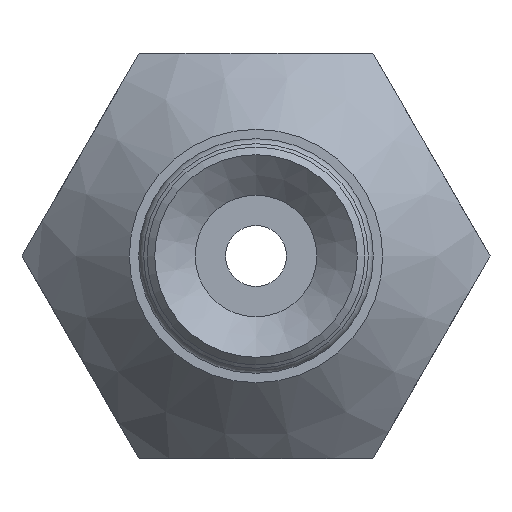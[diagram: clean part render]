
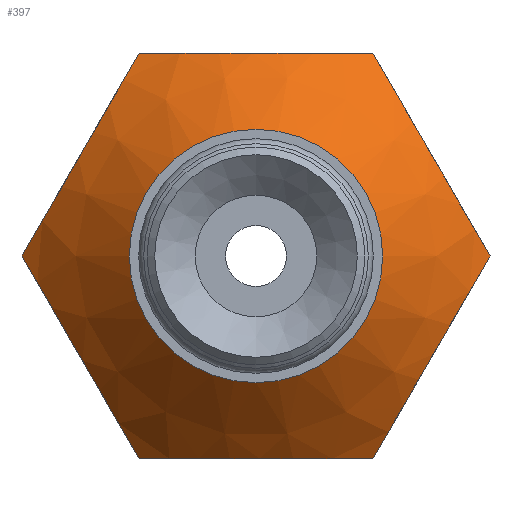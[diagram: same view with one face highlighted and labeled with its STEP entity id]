
A CAD part, front view. The second image highlights one B-rep face of the part: STEP entity #397.
In plain terms, the highlighted conical face has half-angle 45 degrees and reference radius 2.5 mm.
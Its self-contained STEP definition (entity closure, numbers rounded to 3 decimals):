
#397=ADVANCED_FACE('',(#496,#497),#498,.T.);
#496=FACE_BOUND('',#732,.T.);
#497=FACE_OUTER_BOUND('',#733,.T.);
#498=CONICAL_SURFACE('',#734,2.5,0.785);
#732=EDGE_LOOP('',(#967));
#733=EDGE_LOOP('',(#968,#969,#970,#971,#972,#973));
#734=AXIS2_PLACEMENT_3D('',#974,#975,#976);
#967=ORIENTED_EDGE('',*,*,#1600,.F.);
#968=ORIENTED_EDGE('',*,*,#1601,.F.);
#969=ORIENTED_EDGE('',*,*,#1602,.F.);
#970=ORIENTED_EDGE('',*,*,#1603,.F.);
#971=ORIENTED_EDGE('',*,*,#1604,.F.);
#972=ORIENTED_EDGE('',*,*,#1605,.F.);
#973=ORIENTED_EDGE('',*,*,#1606,.F.);
#974=CARTESIAN_POINT('',(0.0,0.,0.0));
#975=DIRECTION('',(-0.0,1.0,-0.0));
#976=DIRECTION('',(0.0,0.0,1.0));
#1600=EDGE_CURVE('',#1771,#1771,#1772,.T.);
#1601=EDGE_CURVE('',#1773,#1774,#1775,.T.);
#1602=EDGE_CURVE('',#1776,#1773,#1777,.T.);
#1603=EDGE_CURVE('',#1778,#1776,#1779,.T.);
#1604=EDGE_CURVE('',#1780,#1778,#1781,.T.);
#1605=EDGE_CURVE('',#1782,#1780,#1783,.T.);
#1606=EDGE_CURVE('',#1774,#1782,#1784,.T.);
#1771=VERTEX_POINT('',#2057);
#1772=CIRCLE('',#2058,2.5);
#1773=VERTEX_POINT('',#2059);
#1774=VERTEX_POINT('',#2060);
#1775=B_SPLINE_CURVE_WITH_KNOTS('',2,(#2061,#2062,#2063,#2064,#2065),.UNSPECIFIED.,.F.,.F.,(3,2,3),(0.0,0.5,1.0),.UNSPECIFIED.);
#1776=VERTEX_POINT('',#2066);
#1777=B_SPLINE_CURVE_WITH_KNOTS('',2,(#2067,#2068,#2069,#2070,#2071),.UNSPECIFIED.,.F.,.F.,(3,2,3),(0.0,0.5,1.0),.UNSPECIFIED.);
#1778=VERTEX_POINT('',#2072);
#1779=B_SPLINE_CURVE_WITH_KNOTS('',2,(#2073,#2074,#2075,#2076,#2077),.UNSPECIFIED.,.F.,.F.,(3,2,3),(0.0,0.5,1.0),.UNSPECIFIED.);
#1780=VERTEX_POINT('',#2078);
#1781=B_SPLINE_CURVE_WITH_KNOTS('',2,(#2079,#2080,#2081,#2082,#2083),.UNSPECIFIED.,.F.,.F.,(3,2,3),(0.0,0.5,1.0),.UNSPECIFIED.);
#1782=VERTEX_POINT('',#2084);
#1783=B_SPLINE_CURVE_WITH_KNOTS('',2,(#2085,#2086,#2087,#2088,#2089),.UNSPECIFIED.,.F.,.F.,(3,2,3),(0.0,0.5,1.0),.UNSPECIFIED.);
#1784=B_SPLINE_CURVE_WITH_KNOTS('',2,(#2090,#2091,#2092,#2093,#2094),.UNSPECIFIED.,.F.,.F.,(3,2,3),(0.0,0.5,1.0),.UNSPECIFIED.);
#2057=CARTESIAN_POINT('',(0.0,0.,-2.5));
#2058=AXIS2_PLACEMENT_3D('',#2513,#2514,#2515);
#2059=CARTESIAN_POINT('',(4.619,2.119,0.));
#2060=CARTESIAN_POINT('',(2.309,2.119,-4.0));
#2061=CARTESIAN_POINT('',(4.619,2.119,0.));
#2062=CARTESIAN_POINT('',(4.002,1.502,-1.068));
#2063=CARTESIAN_POINT('',(3.468,1.5,-1.993));
#2064=CARTESIAN_POINT('',(2.93,1.498,-2.924));
#2065=CARTESIAN_POINT('',(2.309,2.119,-4.));
#2066=CARTESIAN_POINT('',(2.309,2.119,4.0));
#2067=CARTESIAN_POINT('',(2.309,2.119,4.0));
#2068=CARTESIAN_POINT('',(2.926,1.502,2.932));
#2069=CARTESIAN_POINT('',(3.46,1.5,2.007));
#2070=CARTESIAN_POINT('',(3.998,1.498,1.076));
#2071=CARTESIAN_POINT('',(4.619,2.119,0.));
#2072=CARTESIAN_POINT('',(-2.309,2.119,4.0));
#2073=CARTESIAN_POINT('',(-2.309,2.119,4.0));
#2074=CARTESIAN_POINT('',(-1.073,1.5,4.0));
#2075=CARTESIAN_POINT('',(-0.001,1.5,4.0));
#2076=CARTESIAN_POINT('',(1.071,1.5,4.0));
#2077=CARTESIAN_POINT('',(2.309,2.119,4.0));
#2078=CARTESIAN_POINT('',(-4.619,2.119,0.));
#2079=CARTESIAN_POINT('',(-4.619,2.119,0.));
#2080=CARTESIAN_POINT('',(-4.002,1.502,1.068));
#2081=CARTESIAN_POINT('',(-3.468,1.5,1.993));
#2082=CARTESIAN_POINT('',(-2.93,1.498,2.924));
#2083=CARTESIAN_POINT('',(-2.309,2.119,4.));
#2084=CARTESIAN_POINT('',(-2.309,2.119,-4.0));
#2085=CARTESIAN_POINT('',(-2.309,2.119,-4.0));
#2086=CARTESIAN_POINT('',(-2.926,1.502,-2.932));
#2087=CARTESIAN_POINT('',(-3.46,1.5,-2.007));
#2088=CARTESIAN_POINT('',(-3.998,1.498,-1.076));
#2089=CARTESIAN_POINT('',(-4.619,2.119,0.));
#2090=CARTESIAN_POINT('',(2.309,2.119,-4.0));
#2091=CARTESIAN_POINT('',(1.073,1.5,-4.0));
#2092=CARTESIAN_POINT('',(0.001,1.5,-4.0));
#2093=CARTESIAN_POINT('',(-1.071,1.5,-4.0));
#2094=CARTESIAN_POINT('',(-2.309,2.119,-4.0));
#2513=CARTESIAN_POINT('',(0.0,0.,0.0));
#2514=DIRECTION('',(0.0,-1.0,0.0));
#2515=DIRECTION('',(0.0,0.0,-1.0));
